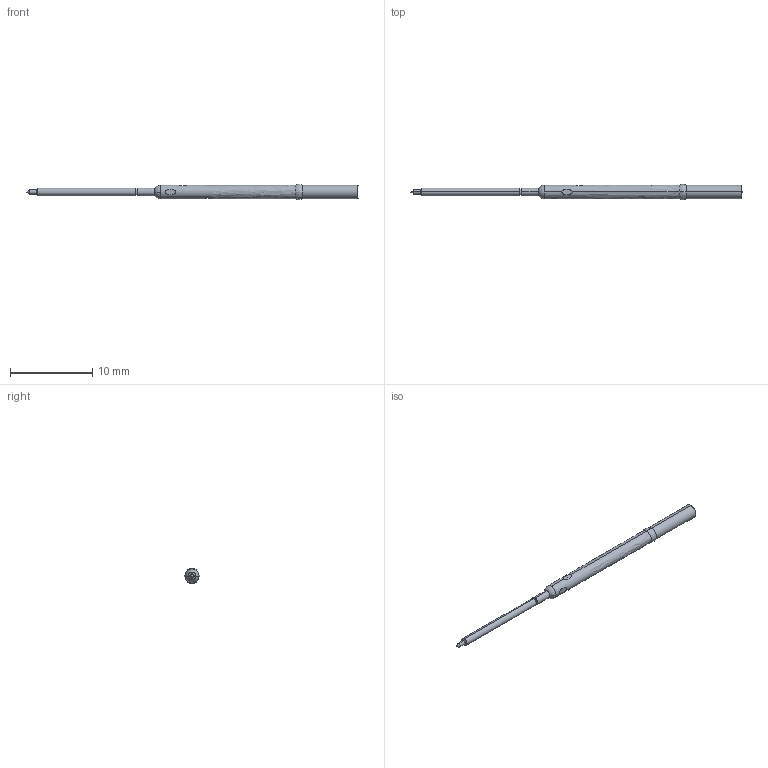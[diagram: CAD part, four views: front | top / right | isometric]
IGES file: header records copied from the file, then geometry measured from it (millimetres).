
Start section: SolidWorks IGES file using analytic representation for surfaces
Global section: file name: Z:\probe solid model mockups\Solidworks models\DER-100\DER-100B RECD.IGS; native system: SolidWorks 2006 by SolidWorks Corporation; preprocessor: SolidWorks 2006 by SolidWorks Corporation; author: tsakatani; date: 071218.090326; units: inch
Bounding box: 40.48 x 1.86 x 1.88 mm (x, y, z)
Surface area: 286.1 mm2 (no closed solid volume)
Topology: 0 solids, 0 shells, 38 faces, 378 edges, 376 vertices
Faces by surface type: revolution 31, bspline 7
